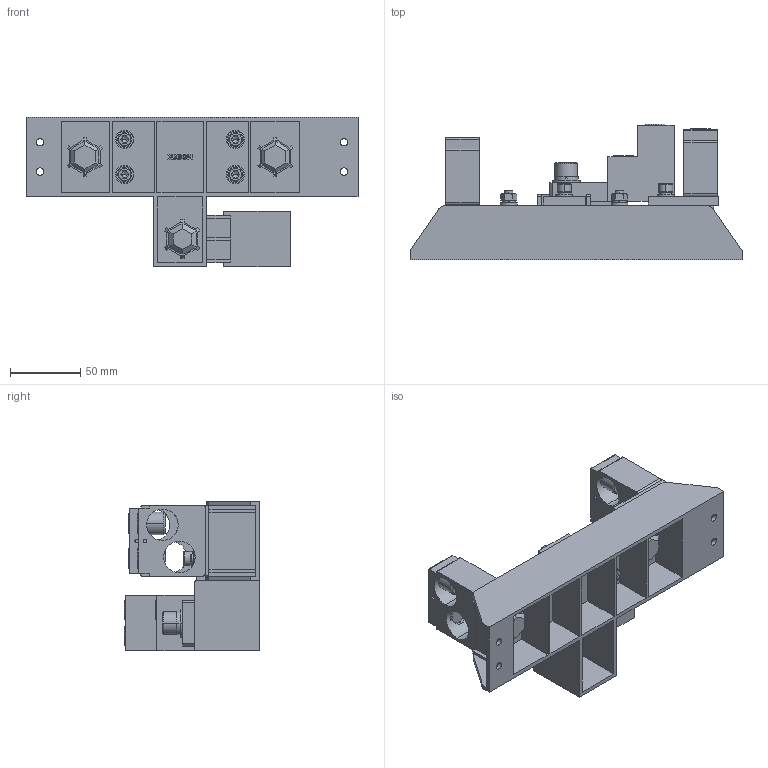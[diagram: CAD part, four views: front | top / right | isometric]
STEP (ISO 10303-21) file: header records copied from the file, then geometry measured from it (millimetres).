
FILE_DESCRIPTION((''),'2;1');
FILE_NAME('6623X1604_ASM','2023-06-01T11:06:21',('ganxw'),(''),'CREO PARAMETRIC BY PTC INC, 2020044','CREO PARAMETRIC BY PTC INC, 2020044','');
FILE_SCHEMA(('CONFIG_CONTROL_DESIGN','SHAPE_APPEARANCE_LAYERS_GROUPS'));
Products named in the file (18): 8754X1604; 8580X1607; 8580X1608; 8574M0726112; 8900M0312103-1; SP050040; SP040194; SP050025; SP030370; SP030367; 8580X1616; 8574M0726120; 8900M0312124; 8900M03121071; 8900M03121072; SP110816; SP110742; 6623X1604_ASM
Assembly tree (44 placements, depth 2):
  6623X1604_ASM
    8754X1604
    8580X1607
    8580X1608
    8574M0726112
    8900M0312103-1  x3
    SP050040  x8
    SP040194  x4
    SP050025  x4
    SP030370  x4
    SP030367
    8580X1616
    8574M0726120  x2
    8900M0312124  x4
    8900M03121071  x2
    8900M03121072  x2
    SP110816  x4
    SP110742
Bounding box: 237 x 97 x 107.05 mm (x, y, z)
Volume: 392087 mm3; surface area: 220173 mm2
Topology: 48 solids, 65 shells, 2319 faces, 6034 edges, 3901 vertices
Faces by surface type: plane 1595, cylinder 348, cone 232, extrusion 48, bspline 48, torus 48
Entity records: 68967 total; most frequent: CARTESIAN_POINT 12429, ORIENTED_EDGE 9416, DIRECTION 8641, EDGE_CURVE 4730, VECTOR 4013, LINE 3965, VERTEX_POINT 3101, PRESENTATION_STYLE_ASSIGNMENT 2698
